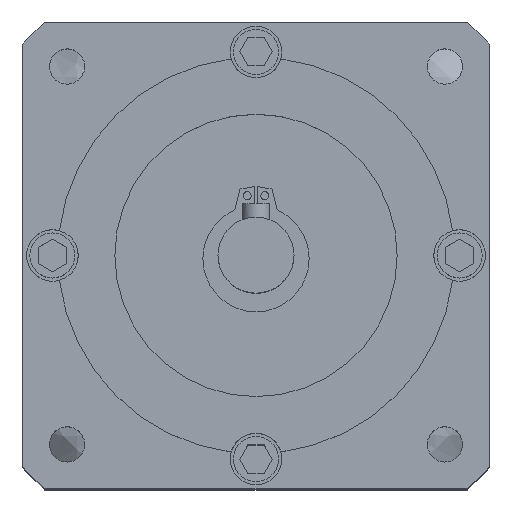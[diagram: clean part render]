
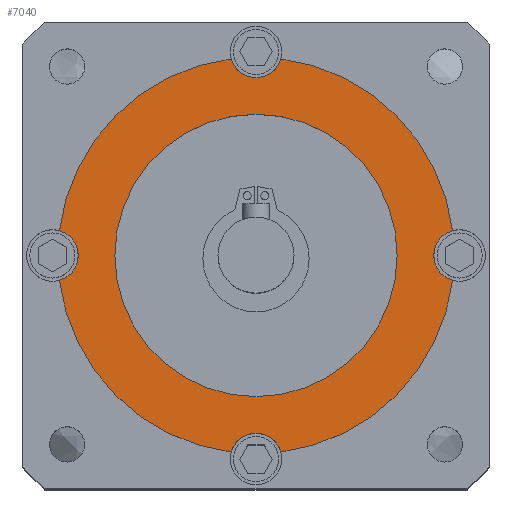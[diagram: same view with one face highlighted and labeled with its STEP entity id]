
A CAD part, top view. The second image highlights one B-rep face of the part: STEP entity #7040.
In plain terms, the highlighted planar face has unit normal (0, 0, 1).
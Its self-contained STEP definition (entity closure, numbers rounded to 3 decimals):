
#96 = CARTESIAN_POINT ( 'NONE',  ( 37.5, 0., 114.7 ) ) ;
#215 = FACE_OUTER_BOUND ( 'NONE', #2440, .T. ) ;
#257 = DIRECTION ( 'NONE',  ( 1., 0., 0. ) ) ;
#284 = CARTESIAN_POINT ( 'NONE',  ( -36.212, 4.572, 114.7 ) ) ;
#331 = EDGE_CURVE ( 'NONE', #1442, #1053, #5206, .T. ) ;
#455 = CIRCLE ( 'NONE', #3616, 36.5 ) ;
#592 = EDGE_CURVE ( 'NONE', #2081, #2367, #6526, .T. ) ;
#799 = CARTESIAN_POINT ( 'NONE',  ( 26., 0., 114.7 ) ) ;
#830 = DIRECTION ( 'NONE',  ( 1., 0., 0. ) ) ;
#888 = ORIENTED_EDGE ( 'NONE', *, *, #7100, .F. ) ;
#898 = CARTESIAN_POINT ( 'NONE',  ( 0., 0., 114.7 ) ) ;
#1005 = DIRECTION ( 'NONE',  ( 0., 0., 1. ) ) ;
#1053 = VERTEX_POINT ( 'NONE', #7630 ) ;
#1057 = DIRECTION ( 'NONE',  ( 1., 0., 0. ) ) ;
#1103 = EDGE_CURVE ( 'NONE', #7820, #7371, #455, .T. ) ;
#1105 = AXIS2_PLACEMENT_3D ( 'NONE', #2773, #5157, #2067 ) ;
#1414 = ORIENTED_EDGE ( 'NONE', *, *, #7775, .T. ) ;
#1430 = ORIENTED_EDGE ( 'NONE', *, *, #1848, .F. ) ;
#1442 = VERTEX_POINT ( 'NONE', #1572 ) ;
#1457 = AXIS2_PLACEMENT_3D ( 'NONE', #6829, #7435, #5719 ) ;
#1490 = AXIS2_PLACEMENT_3D ( 'NONE', #4845, #4969, #7399 ) ;
#1572 = CARTESIAN_POINT ( 'NONE',  ( -36.212, -4.572, 114.7 ) ) ;
#1663 = CIRCLE ( 'NONE', #4065, 26. ) ;
#1834 = EDGE_CURVE ( 'NONE', #2367, #7371, #6543, .T. ) ;
#1848 = EDGE_CURVE ( 'NONE', #4980, #3463, #7332, .T. ) ;
#1866 = AXIS2_PLACEMENT_3D ( 'NONE', #3142, #7415, #4292 ) ;
#1899 = CIRCLE ( 'NONE', #5064, 4.75 ) ;
#2037 = AXIS2_PLACEMENT_3D ( 'NONE', #5688, #3886, #6841 ) ;
#2067 = DIRECTION ( 'NONE',  ( 1., 0., 0. ) ) ;
#2081 = VERTEX_POINT ( 'NONE', #5253 ) ;
#2159 = CARTESIAN_POINT ( 'NONE',  ( -26., 0., 114.7 ) ) ;
#2191 = ORIENTED_EDGE ( 'NONE', *, *, #1103, .T. ) ;
#2259 = CIRCLE ( 'NONE', #1105, 36.5 ) ;
#2333 = CARTESIAN_POINT ( 'NONE',  ( -37.5, 0., 114.7 ) ) ;
#2340 = ORIENTED_EDGE ( 'NONE', *, *, #331, .T. ) ;
#2367 = VERTEX_POINT ( 'NONE', #5567 ) ;
#2440 = EDGE_LOOP ( 'NONE', ( #4750, #5937, #2760, #1414, #5160, #4641, #2340, #4200, #2191, #4330 ) ) ;
#2682 = AXIS2_PLACEMENT_3D ( 'NONE', #898, #1005, #257 ) ;
#2760 = ORIENTED_EDGE ( 'NONE', *, *, #5189, .F. ) ;
#2773 = CARTESIAN_POINT ( 'NONE',  ( 0., 0., 114.7 ) ) ;
#2779 = CIRCLE ( 'NONE', #4028, 4.75 ) ;
#2801 = EDGE_CURVE ( 'NONE', #3172, #5067, #5298, .T. ) ;
#2814 = VERTEX_POINT ( 'NONE', #5600 ) ;
#2906 = EDGE_CURVE ( 'NONE', #2081, #5241, #2259, .T. ) ;
#3142 = CARTESIAN_POINT ( 'NONE',  ( 0., 0., 114.7 ) ) ;
#3172 = VERTEX_POINT ( 'NONE', #6886 ) ;
#3317 = DIRECTION ( 'NONE',  ( 1., 0., 0. ) ) ;
#3419 = PLANE ( 'NONE',  #2682 ) ;
#3463 = VERTEX_POINT ( 'NONE', #799 ) ;
#3616 = AXIS2_PLACEMENT_3D ( 'NONE', #3943, #3980, #3317 ) ;
#3718 = DIRECTION ( 'NONE',  ( 0., 0., 1. ) ) ;
#3767 = EDGE_CURVE ( 'NONE', #7820, #1053, #2779, .T. ) ;
#3886 = DIRECTION ( 'NONE',  ( 0., 0., 1. ) ) ;
#3943 = CARTESIAN_POINT ( 'NONE',  ( 0., 0., 114.7 ) ) ;
#3980 = DIRECTION ( 'NONE',  ( 0., 0., 1. ) ) ;
#4028 = AXIS2_PLACEMENT_3D ( 'NONE', #7597, #5831, #830 ) ;
#4065 = AXIS2_PLACEMENT_3D ( 'NONE', #7656, #5138, #7572 ) ;
#4200 = ORIENTED_EDGE ( 'NONE', *, *, #3767, .F. ) ;
#4208 = EDGE_CURVE ( 'NONE', #1442, #3172, #6713, .T. ) ;
#4292 = DIRECTION ( 'NONE',  ( 1., 0., 0. ) ) ;
#4330 = ORIENTED_EDGE ( 'NONE', *, *, #1834, .F. ) ;
#4580 = FACE_BOUND ( 'NONE', #7851, .T. ) ;
#4641 = ORIENTED_EDGE ( 'NONE', *, *, #4208, .F. ) ;
#4750 = ORIENTED_EDGE ( 'NONE', *, *, #592, .F. ) ;
#4799 = CARTESIAN_POINT ( 'NONE',  ( 4.572, 36.212, 114.7 ) ) ;
#4845 = CARTESIAN_POINT ( 'NONE',  ( -37.5, 0., 114.7 ) ) ;
#4882 = CARTESIAN_POINT ( 'NONE',  ( 0., 37.5, 114.7 ) ) ;
#4969 = DIRECTION ( 'NONE',  ( 0., 0., 1. ) ) ;
#4976 = CARTESIAN_POINT ( 'NONE',  ( 36.213, -4.572, 114.7 ) ) ;
#4980 = VERTEX_POINT ( 'NONE', #2159 ) ;
#5064 = AXIS2_PLACEMENT_3D ( 'NONE', #4882, #5319, #7799 ) ;
#5067 = VERTEX_POINT ( 'NONE', #284 ) ;
#5138 = DIRECTION ( 'NONE',  ( 0., 0., 1. ) ) ;
#5157 = DIRECTION ( 'NONE',  ( 0., 0., 1. ) ) ;
#5160 = ORIENTED_EDGE ( 'NONE', *, *, #2801, .F. ) ;
#5189 = EDGE_CURVE ( 'NONE', #2814, #5241, #1899, .T. ) ;
#5206 = CIRCLE ( 'NONE', #2037, 36.5 ) ;
#5241 = VERTEX_POINT ( 'NONE', #4799 ) ;
#5253 = CARTESIAN_POINT ( 'NONE',  ( 36.212, 4.572, 114.7 ) ) ;
#5298 = CIRCLE ( 'NONE', #1490, 4.75 ) ;
#5319 = DIRECTION ( 'NONE',  ( 0., 0., 1. ) ) ;
#5493 = CIRCLE ( 'NONE', #7276, 36.5 ) ;
#5567 = CARTESIAN_POINT ( 'NONE',  ( 32.75, 0., 114.7 ) ) ;
#5584 = AXIS2_PLACEMENT_3D ( 'NONE', #2333, #6491, #1057 ) ;
#5600 = CARTESIAN_POINT ( 'NONE',  ( -4.572, 36.212, 114.7 ) ) ;
#5688 = CARTESIAN_POINT ( 'NONE',  ( 0., 0., 114.7 ) ) ;
#5719 = DIRECTION ( 'NONE',  ( 1., 0., 0. ) ) ;
#5831 = DIRECTION ( 'NONE',  ( 0., 0., 1. ) ) ;
#5937 = ORIENTED_EDGE ( 'NONE', *, *, #2906, .T. ) ;
#6109 = CARTESIAN_POINT ( 'NONE',  ( 0., 0., 114.7 ) ) ;
#6491 = DIRECTION ( 'NONE',  ( 0., 0., 1. ) ) ;
#6526 = CIRCLE ( 'NONE', #1457, 4.75 ) ;
#6543 = CIRCLE ( 'NONE', #7323, 4.75 ) ;
#6713 = CIRCLE ( 'NONE', #5584, 4.75 ) ;
#6746 = DIRECTION ( 'NONE',  ( 1., 0., 0. ) ) ;
#6829 = CARTESIAN_POINT ( 'NONE',  ( 37.5, 0., 114.7 ) ) ;
#6841 = DIRECTION ( 'NONE',  ( 1., 0., 0. ) ) ;
#6886 = CARTESIAN_POINT ( 'NONE',  ( -32.75, 0., 114.7 ) ) ;
#7023 = CARTESIAN_POINT ( 'NONE',  ( 4.572, -36.212, 114.7 ) ) ;
#7040 = ADVANCED_FACE ( 'NONE', ( #215, #4580 ), #3419, .T. ) ;
#7100 = EDGE_CURVE ( 'NONE', #3463, #4980, #1663, .T. ) ;
#7276 = AXIS2_PLACEMENT_3D ( 'NONE', #6109, #3718, #6746 ) ;
#7323 = AXIS2_PLACEMENT_3D ( 'NONE', #96, #7334, #7375 ) ;
#7332 = CIRCLE ( 'NONE', #1866, 26. ) ;
#7334 = DIRECTION ( 'NONE',  ( 0., 0., 1. ) ) ;
#7371 = VERTEX_POINT ( 'NONE', #4976 ) ;
#7375 = DIRECTION ( 'NONE',  ( 1., 0., 0. ) ) ;
#7399 = DIRECTION ( 'NONE',  ( 1., 0., 0. ) ) ;
#7415 = DIRECTION ( 'NONE',  ( 0., 0., 1. ) ) ;
#7435 = DIRECTION ( 'NONE',  ( 0., 0., 1. ) ) ;
#7572 = DIRECTION ( 'NONE',  ( 1., 0., 0. ) ) ;
#7597 = CARTESIAN_POINT ( 'NONE',  ( 0., -37.5, 114.7 ) ) ;
#7630 = CARTESIAN_POINT ( 'NONE',  ( -4.572, -36.212, 114.7 ) ) ;
#7656 = CARTESIAN_POINT ( 'NONE',  ( 0., 0., 114.7 ) ) ;
#7775 = EDGE_CURVE ( 'NONE', #2814, #5067, #5493, .T. ) ;
#7799 = DIRECTION ( 'NONE',  ( 1., 0., 0. ) ) ;
#7820 = VERTEX_POINT ( 'NONE', #7023 ) ;
#7851 = EDGE_LOOP ( 'NONE', ( #1430, #888 ) ) ;
